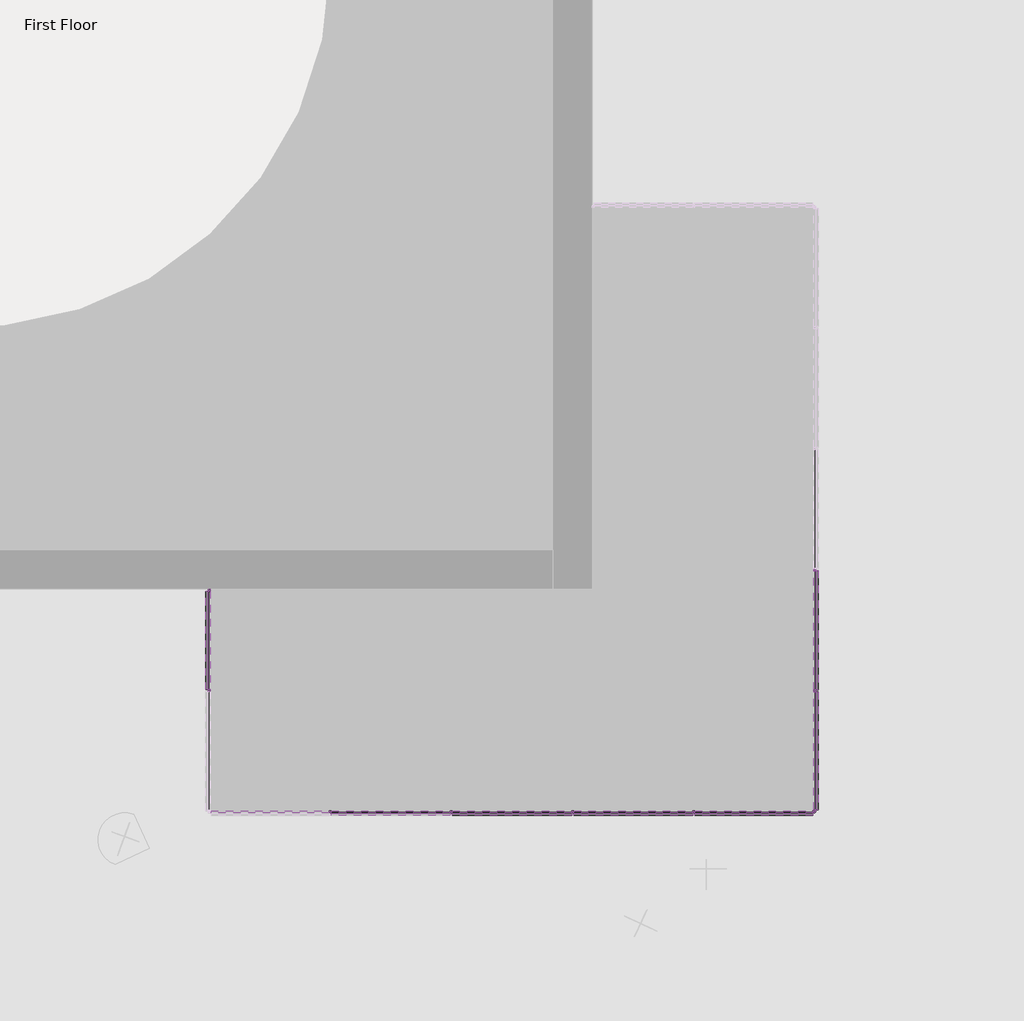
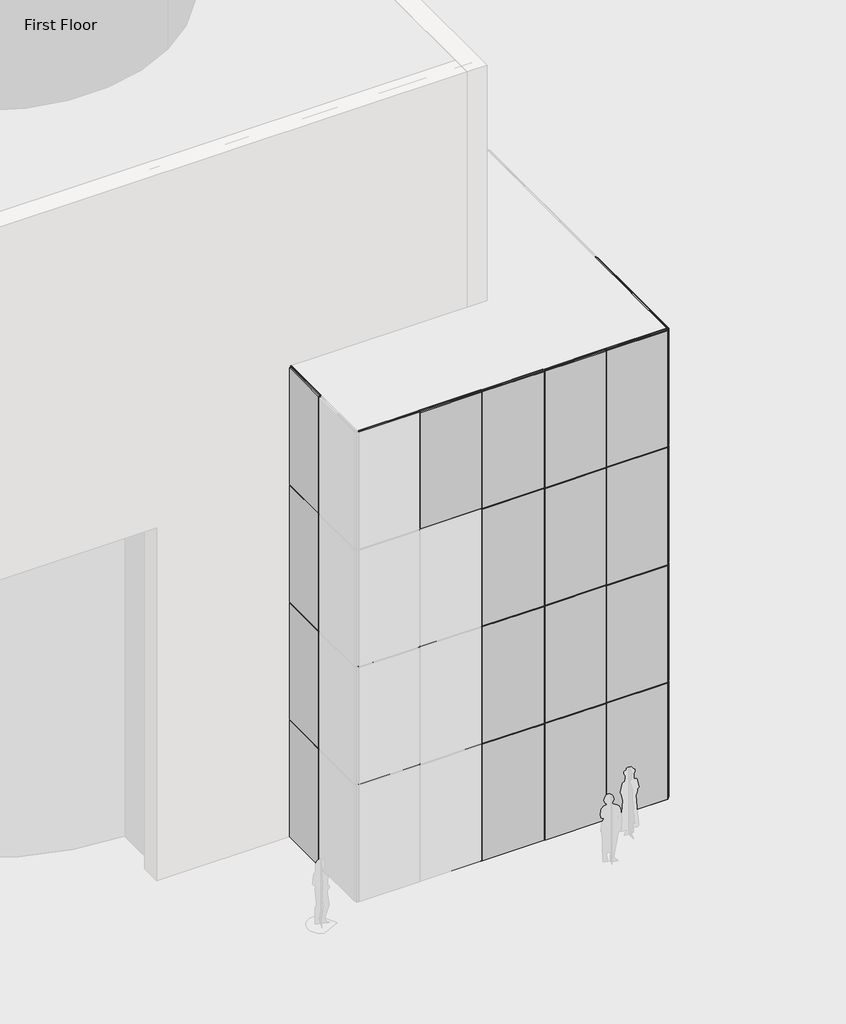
# One storey, part 2 of 5: 82 members, 25 plates.
"""IFC4 building model written with IfcOpenShell, lengths in millimetres."""

import ifcopenshell
import ifcopenshell.guid

model = None  # the IFC model being written
_history = None  # IfcOwnerHistory: only IFC2X3 demands one
_inside = {}  # id of a spatial element -> (the spatial element, [elements in it])
_under = {}  # id of a project, library or spatial element -> (it, [spatial elements below it])
_declared = {}  # id of a project -> (the project, [libraries it declares])
_typed = {}  # id of a type object -> (the type object, [elements of that type])
_made_of = {}  # id of a material, layer set ... -> (it, [elements and type objects made of it])


def new_model(schema):
    """Start an empty IFC model of exactly this schema.

    Asked for "IFC4X3", IfcOpenShell would pick the latest addendum, in which some entities
    have other attributes; the version numbers below select the first issue.
    IFC2X3 requires an IfcOwnerHistory on every rooted entity: one is made here for all.
    """
    global model, _history
    if schema == "IFC4X3":
        model = ifcopenshell.file(schema_version=(4, 3, 0, 0))
    else:
        model = ifcopenshell.file(schema=schema)
    _inside.clear()
    _under.clear()
    _declared.clear()
    _typed.clear()
    _made_of.clear()
    _history = None
    if model.schema == "IFC2X3":
        org = make("IfcOrganization", Name="unknown")
        user = make(
            "IfcPersonAndOrganization",
            ThePerson=make("IfcPerson", FamilyName="unknown"),
            TheOrganization=org,
        )
        app = make(
            "IfcApplication",
            ApplicationDeveloper=org,
            Version="unknown",
            ApplicationFullName="unknown",
            ApplicationIdentifier="unknown",
        )
        _history = make(
            "IfcOwnerHistory",
            OwningUser=user,
            OwningApplication=app,
            ChangeAction="ADDED",
            CreationDate=0,
        )
    return model


def make(cls, **values):
    """One entity of the class cls with the attributes given. An attribute that is None is left unset."""
    return model.create_entity(
        cls, **{name: value for name, value in values.items() if value is not None}
    )


def rooted(cls, **values):
    """An entity with a GlobalId (a new one), such as an element, a storey or a relation."""
    return make(cls, GlobalId=ifcopenshell.guid.new(), OwnerHistory=_history, **values)


def si_unit(unit_type, name, prefix=None):
    """IfcSIUnit, for example si_unit("LENGTHUNIT", "METRE", prefix="MILLI")."""
    return make("IfcSIUnit", UnitType=unit_type, Prefix=prefix, Name=name)


def assignment(units):
    """IfcUnitAssignment: the units of a project."""
    return None if units is None else make("IfcUnitAssignment", Units=units)


def point(xyz):
    """IfcCartesianPoint."""
    return None if xyz is None else make("IfcCartesianPoint", Coordinates=xyz)


def direction(xyz):
    """IfcDirection."""
    return None if xyz is None else make("IfcDirection", DirectionRatios=xyz)


def frame(location, z_axis=None, x_axis=None):
    """IfcAxis2Placement3D, a coordinate frame: its origin and axes. An axis left out is left unset."""
    return make(
        "IfcAxis2Placement3D",
        Location=point(location),
        Axis=direction(z_axis),
        RefDirection=direction(x_axis),
    )


def origin():
    """The frame at (0, 0, 0) with its axes left unset."""
    return frame((0.0, 0.0, 0.0))


def origin_with_axes():
    """The frame at (0, 0, 0) with the z axis (0, 0, 1) and the x axis (1, 0, 0) written out."""
    return frame((0.0, 0.0, 0.0), z_axis=(0.0, 0.0, 1.0), x_axis=(1.0, 0.0, 0.0))


def place(relative_to, where):
    """IfcLocalPlacement: puts the frame where relative to a parent placement (None: the world)."""
    return make(
        "IfcLocalPlacement", PlacementRelTo=relative_to, RelativePlacement=where
    )


def context(
    kind, dimensions, precision=None, world=None, true_north=None, identifier=None
):
    """IfcGeometricRepresentationContext, for example the 3D "Model" context."""
    return make(
        "IfcGeometricRepresentationContext",
        ContextIdentifier=identifier,
        ContextType=kind,
        CoordinateSpaceDimension=dimensions,
        Precision=precision,
        WorldCoordinateSystem=world,
        TrueNorth=true_north,
    )


def project(units=None, contexts=None):
    """IfcProject with its units and contexts."""
    return rooted(
        "IfcProject",
        Name="project",
        RepresentationContexts=contexts,
        UnitsInContext=assignment(units),
    )


def spatial(cls, under=None, at=None, **own):
    """A site, building, storey or space (cls), placed at a placement, below another one or the project."""
    s = rooted(cls, ObjectPlacement=at, **own)
    if under is not None:
        _under.setdefault(under.id(), (under, []))[1].append(s)
    return s


def polyline(points):
    """IfcPolyline through the points."""
    return make("IfcPolyline", Points=[point(p) for p in points])


def outline(outer, holes=None, kind="AREA"):
    """IfcArbitraryClosedProfileDef: a profile drawn as a closed curve; with holes, ...WithVoids."""
    if holes is None:
        return make("IfcArbitraryClosedProfileDef", ProfileType=kind, OuterCurve=outer)
    return make(
        "IfcArbitraryProfileDefWithVoids",
        ProfileType=kind,
        OuterCurve=outer,
        InnerCurves=holes,
    )


def extrude(swept, where, along, depth):
    """IfcExtrudedAreaSolid: the profile swept, set in the frame where, extruded along a direction by depth."""
    return make(
        "IfcExtrudedAreaSolid",
        SweptArea=swept,
        Position=where,
        ExtrudedDirection=direction(along),
        Depth=depth,
    )


def shape(context_of_items, identifier, shape_type, items):
    """IfcShapeRepresentation: the items that make up one representation, for example the "Body"."""
    return make(
        "IfcShapeRepresentation",
        ContextOfItems=context_of_items,
        RepresentationIdentifier=identifier,
        RepresentationType=shape_type,
        Items=items,
    )


def source(mapping_origin, context_of_items, identifier, shape_type, items):
    """IfcRepresentationMap: a shape defined once, which mapped items show again and again."""
    return make(
        "IfcRepresentationMap",
        MappingOrigin=mapping_origin,
        MappedRepresentation=shape(context_of_items, identifier, shape_type, items),
    )


def transform(
    local_origin,
    x_axis=None,
    y_axis=None,
    z_axis=None,
    scale=None,
    scale2=None,
    scale3=None,
    uniform=True,
):
    """IfcCartesianTransformationOperator3D, or its non-uniform kind. x_axis, y_axis, z_axis: its Axis1, 2, 3."""
    if uniform:
        return make(
            "IfcCartesianTransformationOperator3D",
            Axis1=direction(x_axis),
            Axis2=direction(y_axis),
            LocalOrigin=point(local_origin),
            Scale=scale,
            Axis3=direction(z_axis),
        )
    return make(
        "IfcCartesianTransformationOperator3DnonUniform",
        Axis1=direction(x_axis),
        Axis2=direction(y_axis),
        LocalOrigin=point(local_origin),
        Scale=scale,
        Axis3=direction(z_axis),
        Scale2=scale2,
        Scale3=scale3,
    )


def mapped(mapping_source, mapping_target):
    """IfcMappedItem: shows the shape of a source again, moved by a transform."""
    return make(
        "IfcMappedItem", MappingSource=mapping_source, MappingTarget=mapping_target
    )


def made_of(thing, what):
    """Note that an element or type object is made of a material, layer set ...; save() writes the relation."""
    if what is not None:
        _made_of.setdefault(what.id(), (what, []))[1].append(thing)
    return thing


def element(
    cls,
    number,
    at=None,
    inside=None,
    cuts=None,
    type_object=None,
    material=None,
    context=None,
    identifier="Body",
    shape_type=None,
    held_by="IfcProductDefinitionShape",
    body=None,
    shapes=None,
    **own,
):
    """One element of the class cls, such as IfcWall. Its Tag is "e" and its number.

    at: its placement. inside: the storey or other place that contains it. cuts: it is an
    opening in that element (IfcRelVoidsElement). A single representation is given by context,
    identifier, shape_type and body (its items); several are given by shapes. held_by: the class
    of the entity that holds the representations. save() writes the other relations.
    """
    e = rooted(cls, Tag="e%d" % number, ObjectPlacement=at, **own)
    if body is not None:
        shapes = [shape(context, identifier, shape_type, body)]
    if shapes is not None:
        e.Representation = make(held_by, Representations=shapes)
    if inside is not None:
        _inside.setdefault(inside.id(), (inside, []))[1].append(e)
    if cuts is not None:
        rooted(
            "IfcRelVoidsElement", RelatingBuildingElement=cuts, RelatedOpeningElement=e
        )
    if type_object is not None:
        _typed.setdefault(type_object.id(), (type_object, []))[1].append(e)
    return made_of(e, material)


def aggregate(whole, parts):
    """IfcRelAggregates: a whole, such as a stair, and the parts it consists of."""
    return rooted("IfcRelAggregates", RelatingObject=whole, RelatedObjects=parts)


def save(model, path):
    """Write the relations noted so far, then the file.

    IfcRelAggregates (storeys below a building ...), IfcRelContainedInSpatialStructure (elements
    in a storey), IfcRelDefinesByType, IfcRelAssociatesMaterial and IfcRelDeclares: one each for
    every whole, place, type object, material and project.
    """
    for whole, parts in _under.values():
        aggregate(whole, parts)
    for where, things in _inside.values():
        rooted(
            "IfcRelContainedInSpatialStructure",
            RelatedElements=things,
            RelatingStructure=where,
        )
    for kind, things in _typed.values():
        rooted("IfcRelDefinesByType", RelatedObjects=things, RelatingType=kind)
    for what, things in _made_of.values():
        rooted("IfcRelAssociatesMaterial", RelatedObjects=things, RelatingMaterial=what)
    for by, libraries in _declared.values():
        rooted("IfcRelDeclares", RelatingContext=by, RelatedDefinitions=libraries)
    model.write(path)


def member_5e617a80(model_context):
    return source(origin(), model_context, "Body", "SweptSolid", [
        extrude(outline(polyline([(12.7, 12.7), (12.7, -12.7), (-12.7, -12.7), (-12.7, 12.7), (12.7, 12.7)])), frame((0.0, 0.0, -1485.9), z_axis=(0.0, 0.0, 1.0), x_axis=(1.0, 0.0, 0.0)), (0.0, 0.0, 1.0), 1485.9),
    ])


def member_74941792(model_context):
    return source(origin(), model_context, "Body", "SweptSolid", [
        extrude(outline(polyline([(0.0, 12.7), (0.0, -12.7), (-25.4, -12.7), (-25.4, 12.7), (0.0, 12.7)])), frame((0.0, 0.0, -1485.9), z_axis=(0.0, 0.0, 1.0), x_axis=(1.0, 0.0, 0.0)), (0.0, 0.0, 1.0), 1485.9),
    ])


def member_cbdb9076(model_context):
    return source(origin(), model_context, "Body", "SweptSolid", [
        extrude(outline(polyline([(12.7, 12.7), (12.7, -12.7), (-12.7, -12.7), (-12.7, 12.7), (12.7, 12.7)])), frame((0.0, 0.0, -3048.0), z_axis=(0.0, 0.0, 1.0), x_axis=(1.0, 0.0, 0.0)), (0.0, 0.0, 1.0), 3048.0),
    ])


def member_0d8d9af5(model_context):
    return source(origin(), model_context, "Body", "SweptSolid", [
        extrude(outline(polyline([(0.0, 12.7), (0.0, -12.7), (-25.4, -12.7), (-25.4, 12.7), (0.0, 12.7)])), frame((0.0, 0.0, -1241.425), z_axis=(0.0, 0.0, 1.0), x_axis=(1.0, 0.0, 0.0)), (0.0, 0.0, 1.0), 1241.425),
    ])


def member_7e523723(model_context):
    return source(origin(), model_context, "Body", "SweptSolid", [
        extrude(outline(polyline([(0.0, 12.7), (0.0, -12.7), (-25.4, -12.7), (-25.4, 12.7), (0.0, 12.7)])), frame((0.0, 0.0, -3048.0), z_axis=(0.0, 0.0, 1.0), x_axis=(1.0, 0.0, 0.0)), (0.0, 0.0, 1.0), 3048.0),
    ])


def member_9fd3d903(model_context):
    return source(origin(), model_context, "Body", "SweptSolid", [
        extrude(outline(polyline([(12.7, 12.7), (12.7, -12.7), (-12.7, -12.7), (-12.7, 12.7), (12.7, 12.7)])), frame((0.0, 0.0, -1498.6), z_axis=(0.0, 0.0, 1.0), x_axis=(1.0, 0.0, 0.0)), (0.0, 0.0, 1.0), 1498.6),
    ])


def member_6604d1e0(model_context):
    return source(origin(), model_context, "Body", "SweptSolid", [
        extrude(outline(polyline([(0.0, 12.7), (0.0, -12.7), (-25.4, -12.7), (-25.4, 12.7), (0.0, 12.7)])), frame((0.0, 0.0, -1498.6), z_axis=(0.0, 0.0, 1.0), x_axis=(1.0, 0.0, 0.0)), (0.0, 0.0, 1.0), 1498.6),
    ])


def member_e0356dda(model_context):
    return source(origin(), model_context, "Body", "SweptSolid", [
        extrude(outline(polyline([(12.7, 12.7), (12.7, -12.7), (-12.7, -12.7), (-12.7, 12.7), (12.7, 12.7)])), frame((0.0, 0.0, -1238.25), z_axis=(0.0, 0.0, 1.0), x_axis=(1.0, 0.0, 0.0)), (0.0, 0.0, 1.0), 1238.25),
    ])


def member_be0b070d(model_context):
    return source(origin(), model_context, "Body", "SweptSolid", [
        extrude(outline(polyline([(0.0, 12.7), (0.0, -12.7), (-25.4, -12.7), (-25.4, 12.7), (0.0, 12.7)])), frame((0.0, 0.0, -1238.25), z_axis=(0.0, 0.0, 1.0), x_axis=(1.0, 0.0, 0.0)), (0.0, 0.0, 1.0), 1238.25),
    ])


def system_panel_glazed_9b7d687a(model_context):
    return source(origin(), model_context, "Body", "SweptSolid", [
        extrude(outline(polyline([(742.95, -44.45), (-742.95, -44.45), (-742.95, -19.05), (742.95, -19.05), (742.95, -44.45)])), origin_with_axes(), (0.0, 0.0, 1.0), 3009.9),
    ])


def system_panel_glazed_9a901b4a(model_context):
    return source(origin(), model_context, "Body", "SweptSolid", [
        extrude(outline(polyline([(742.95, -44.45), (-742.95, -44.45), (-742.95, -19.05), (742.95, -19.05), (742.95, -44.45)])), origin_with_axes(), (0.0, 0.0, 1.0), 3022.6),
    ])


def system_panel_glazed_2d5e1d3d(model_context):
    return source(origin(), model_context, "Body", "SweptSolid", [
        extrude(outline(polyline([(749.3, -44.45), (-749.3, -44.45), (-749.3, -19.05), (749.3, -19.05), (749.3, -44.45)])), origin_with_axes(), (0.0, 0.0, 1.0), 3009.9),
    ])


def system_panel_glazed_37964ea6(model_context):
    return source(origin(), model_context, "Body", "SweptSolid", [
        extrude(outline(polyline([(749.3, -44.45), (-749.3, -44.45), (-749.3, -19.05), (749.3, -19.05), (749.3, -44.45)])), origin_with_axes(), (0.0, 0.0, 1.0), 3022.6),
    ])


def system_panel_glazed_a669fc9f(model_context):
    return source(origin(), model_context, "Body", "SweptSolid", [
        extrude(outline(polyline([(619.125, -44.45), (-619.125, -44.45), (-619.125, -19.05), (619.125, -19.05), (619.125, -44.45)])), origin_with_axes(), (0.0, 0.0, 1.0), 3009.9),
    ])


def system_panel_glazed_51c864c8(model_context):
    return source(origin(), model_context, "Body", "SweptSolid", [
        extrude(outline(polyline([(619.125, -44.45), (-619.125, -44.45), (-619.125, -19.05), (619.125, -19.05), (619.125, -44.45)])), origin_with_axes(), (0.0, 0.0, 1.0), 3022.6),
    ])


model = new_model("IFC4")

# Units and contexts
model_context = context("Model", 3, world=origin())
ifc_project = project(units=[si_unit("LENGTHUNIT", "METRE", prefix="MILLI")], contexts=[model_context])

# Site, building, storey
site = spatial("IfcSite", under=ifc_project)
building = spatial("IfcBuilding", under=site)
storey = spatial("IfcBuildingStorey", under=building, Name="First Floor", Elevation=0.0)

# Members
placement = place(None, origin())
member_shape = member_5e617a80(model_context)
element("IfcMember", 1, ObjectType="Rectangular Mullion : 1\" Square", at=placement, inside=storey, context=model_context, shape_type="MappedRepresentation", body=[
    mapped(member_shape, transform((2088.1943843, -11353.9860776, 3048.0), x_axis=(0.0, 0.0, 1.0), y_axis=(0.0, -1.0, 0.0), z_axis=(1.0, 0.0, 0.0))),
])
element("IfcMember", 2, ObjectType="Rectangular Mullion : 1\" Square", at=placement, inside=storey, context=model_context, shape_type="MappedRepresentation", body=[
    mapped(member_shape, transform((8171.4943843, -11353.9860776, 3048.0), x_axis=(0.0, 0.0, 1.0), y_axis=(0.0, -1.0, 0.0), z_axis=(1.0, 0.0, 0.0))),
])
element("IfcMember", 3, ObjectType="Rectangular Mullion : 1\" Square", at=placement, inside=storey, context=model_context, shape_type="MappedRepresentation", body=[
    mapped(member_shape, transform((2088.1943843, -11353.9860776, 6096.0), x_axis=(0.0, 0.0, 1.0), y_axis=(0.0, -1.0, 0.0), z_axis=(1.0, 0.0, 0.0))),
])
element("IfcMember", 4, ObjectType="Rectangular Mullion : 1\" Square", at=placement, inside=storey, context=model_context, shape_type="MappedRepresentation", body=[
    mapped(member_shape, transform((8171.4943843, -11353.9860776, 6096.0), x_axis=(0.0, 0.0, 1.0), y_axis=(0.0, -1.0, 0.0), z_axis=(1.0, 0.0, 0.0))),
])
element("IfcMember", 5, ObjectType="Rectangular Mullion : 1\" Square", at=placement, inside=storey, context=model_context, shape_type="MappedRepresentation", body=[
    mapped(member_shape, transform((2088.1943843, -11353.9860776, 9144.0), x_axis=(0.0, 0.0, 1.0), y_axis=(0.0, -1.0, 0.0), z_axis=(1.0, 0.0, 0.0))),
])
element("IfcMember", 6, ObjectType="Rectangular Mullion : 1\" Square", at=placement, inside=storey, context=model_context, shape_type="MappedRepresentation", body=[
    mapped(member_shape, transform((8171.4943843, -11353.9860776, 9144.0), x_axis=(0.0, 0.0, 1.0), y_axis=(0.0, -1.0, 0.0), z_axis=(1.0, 0.0, 0.0))),
])
element("IfcMember", 7, ObjectType="Rectangular Mullion : 1\" Square", at=placement, inside=storey, context=model_context, shape_type="MappedRepresentation", body=[
    mapped(member_shape, transform((8196.8943843, -9842.6860776, 3048.0), x_axis=(0.0, 0.0, 1.0), y_axis=(1.0, 0.0, 0.0), z_axis=(0.0, 1.0, 0.0))),
])
element("IfcMember", 8, ObjectType="Rectangular Mullion : 1\" Square", at=placement, inside=storey, context=model_context, shape_type="MappedRepresentation", body=[
    mapped(member_shape, transform((8196.8943843, -9842.6860776, 6096.0), x_axis=(0.0, 0.0, 1.0), y_axis=(1.0, 0.0, 0.0), z_axis=(0.0, 1.0, 0.0))),
])
element("IfcMember", 9, ObjectType="Rectangular Mullion : 1\" Square", at=placement, inside=storey, context=model_context, shape_type="MappedRepresentation", body=[
    mapped(member_shape, transform((8196.8943843, -9842.6860776, 9144.0), x_axis=(0.0, 0.0, 1.0), y_axis=(1.0, 0.0, 0.0), z_axis=(0.0, 1.0, 0.0))),
])
member_2_shape = member_74941792(model_context)
element("IfcMember", 10, ObjectType="Rectangular Mullion : 1\" Square", at=placement, inside=storey, context=model_context, shape_type="MappedRepresentation", body=[
    mapped(member_2_shape, transform((8171.4943843, -11353.9860776, 12192.0), x_axis=(0.0, 0.0, 1.0), y_axis=(0.0, -1.0, 0.0), z_axis=(1.0, 0.0, 0.0))),
])
element("IfcMember", 11, ObjectType="Rectangular Mullion : 1\" Square", at=placement, inside=storey, context=model_context, shape_type="MappedRepresentation", body=[
    mapped(member_2_shape, transform((2088.1943843, -11353.9860776, 12192.0), x_axis=(0.0, 0.0, 1.0), y_axis=(0.0, -1.0, 0.0), z_axis=(1.0, 0.0, 0.0))),
])
element("IfcMember", 12, ObjectType="Rectangular Mullion : 1\" Square", at=placement, inside=storey, context=model_context, shape_type="MappedRepresentation", body=[
    mapped(member_2_shape, transform((8196.8943843, -9842.6860776, 12192.0), x_axis=(0.0, 0.0, 1.0), y_axis=(1.0, 0.0, 0.0), z_axis=(0.0, 1.0, 0.0))),
])
member_3_shape = member_cbdb9076(model_context)
element("IfcMember", 13, ObjectType="Rectangular Mullion : 1\" Square", at=placement, inside=storey, context=model_context, shape_type="MappedRepresentation", body=[
    mapped(member_3_shape, transform((576.8943843, -9826.8110776, 3048.0), x_axis=(0.0, -1.0, 0.0), y_axis=(-1.0, 0.0, 0.0), z_axis=(0.0, 0.0, -1.0))),
])
element("IfcMember", 14, ObjectType="Rectangular Mullion : 1\" Square", at=placement, inside=storey, context=model_context, shape_type="MappedRepresentation", body=[
    mapped(member_3_shape, transform((576.8943843, -9826.8110776, 6096.0), x_axis=(0.0, -1.0, 0.0), y_axis=(-1.0, 0.0, 0.0), z_axis=(0.0, 0.0, -1.0))),
])
element("IfcMember", 15, ObjectType="Rectangular Mullion : 1\" Square", at=placement, inside=storey, context=model_context, shape_type="MappedRepresentation", body=[
    mapped(member_3_shape, transform((2100.8943843, -11353.9860776, 3048.0), x_axis=(1.0, 0.0, 0.0), y_axis=(0.0, -1.0, 0.0), z_axis=(0.0, 0.0, -1.0))),
])
element("IfcMember", 16, ObjectType="Rectangular Mullion : 1\" Square", at=placement, inside=storey, context=model_context, shape_type="MappedRepresentation", body=[
    mapped(member_3_shape, transform((2100.8943843, -11353.9860776, 6096.0), x_axis=(1.0, 0.0, 0.0), y_axis=(0.0, -1.0, 0.0), z_axis=(0.0, 0.0, -1.0))),
])
element("IfcMember", 17, ObjectType="Rectangular Mullion : 1\" Square", at=placement, inside=storey, context=model_context, shape_type="MappedRepresentation", body=[
    mapped(member_3_shape, transform((3624.8943843, -11353.9860776, 3048.0), x_axis=(1.0, 0.0, 0.0), y_axis=(0.0, -1.0, 0.0), z_axis=(0.0, 0.0, -1.0))),
])
element("IfcMember", 18, ObjectType="Rectangular Mullion : 1\" Square", at=placement, inside=storey, context=model_context, shape_type="MappedRepresentation", body=[
    mapped(member_3_shape, transform((3624.8943843, -11353.9860776, 6096.0), x_axis=(1.0, 0.0, 0.0), y_axis=(0.0, -1.0, 0.0), z_axis=(0.0, 0.0, -1.0))),
])
element("IfcMember", 19, ObjectType="Rectangular Mullion : 1\" Square", at=placement, inside=storey, context=model_context, shape_type="MappedRepresentation", body=[
    mapped(member_3_shape, transform((5148.8943843, -11353.9860776, 3048.0), x_axis=(1.0, 0.0, 0.0), y_axis=(0.0, -1.0, 0.0), z_axis=(0.0, 0.0, -1.0))),
])
element("IfcMember", 20, ObjectType="Rectangular Mullion : 1\" Square", at=placement, inside=storey, context=model_context, shape_type="MappedRepresentation", body=[
    mapped(member_3_shape, transform((5148.8943843, -11353.9860776, 6096.0), x_axis=(1.0, 0.0, 0.0), y_axis=(0.0, -1.0, 0.0), z_axis=(0.0, 0.0, -1.0))),
])
element("IfcMember", 21, ObjectType="Rectangular Mullion : 1\" Square", at=placement, inside=storey, context=model_context, shape_type="MappedRepresentation", body=[
    mapped(member_3_shape, transform((6672.8943843, -11353.9860776, 3048.0), x_axis=(1.0, 0.0, 0.0), y_axis=(0.0, -1.0, 0.0), z_axis=(0.0, 0.0, -1.0))),
])
element("IfcMember", 22, ObjectType="Rectangular Mullion : 1\" Square", at=placement, inside=storey, context=model_context, shape_type="MappedRepresentation", body=[
    mapped(member_3_shape, transform((6672.8943843, -11353.9860776, 6096.0), x_axis=(1.0, 0.0, 0.0), y_axis=(0.0, -1.0, 0.0), z_axis=(0.0, 0.0, -1.0))),
])
element("IfcMember", 23, ObjectType="Rectangular Mullion : 1\" Square", at=placement, inside=storey, context=model_context, shape_type="MappedRepresentation", body=[
    mapped(member_3_shape, transform((8196.8943843, -8305.9860776, 6096.0), x_axis=(0.0, 1.0, 0.0), y_axis=(1.0, 0.0, 0.0), z_axis=(0.0, 0.0, -1.0))),
])
element("IfcMember", 24, ObjectType="Rectangular Mullion : 1\" Square", at=placement, inside=storey, context=model_context, shape_type="MappedRepresentation", body=[
    mapped(member_3_shape, transform((8196.8943843, -9829.9860776, 3048.0), x_axis=(0.0, 1.0, 0.0), y_axis=(1.0, 0.0, 0.0), z_axis=(0.0, 0.0, -1.0))),
])
element("IfcMember", 25, ObjectType="Rectangular Mullion : 1\" Square", at=placement, inside=storey, context=model_context, shape_type="MappedRepresentation", body=[
    mapped(member_3_shape, transform((8196.8943843, -9829.9860776, 6096.0), x_axis=(0.0, 1.0, 0.0), y_axis=(1.0, 0.0, 0.0), z_axis=(0.0, 0.0, -1.0))),
])
element("IfcMember", 26, ObjectType="Rectangular Mullion : 1\" Square", at=placement, inside=storey, context=model_context, shape_type="MappedRepresentation", body=[
    mapped(member_3_shape, transform((8196.8943843, -8305.9860776, 3048.0), x_axis=(0.0, 1.0, 0.0), y_axis=(1.0, 0.0, 0.0), z_axis=(0.0, 0.0, -1.0))),
])
element("IfcMember", 27, ObjectType="Rectangular Mullion : 1\" Square", at=placement, inside=storey, context=model_context, shape_type="MappedRepresentation", body=[
    mapped(member_3_shape, transform((576.8943843, -9826.8110776, 9144.0), x_axis=(0.0, -1.0, 0.0), y_axis=(-1.0, 0.0, 0.0), z_axis=(0.0, 0.0, -1.0))),
])
element("IfcMember", 28, ObjectType="Rectangular Mullion : 1\" Square", at=placement, inside=storey, context=model_context, shape_type="MappedRepresentation", body=[
    mapped(member_3_shape, transform((2100.8943843, -11353.9860776, 9144.0), x_axis=(1.0, 0.0, 0.0), y_axis=(0.0, -1.0, 0.0), z_axis=(0.0, 0.0, -1.0))),
])
element("IfcMember", 29, ObjectType="Rectangular Mullion : 1\" Square", at=placement, inside=storey, context=model_context, shape_type="MappedRepresentation", body=[
    mapped(member_3_shape, transform((3624.8943843, -11353.9860776, 9144.0), x_axis=(1.0, 0.0, 0.0), y_axis=(0.0, -1.0, 0.0), z_axis=(0.0, 0.0, -1.0))),
])
element("IfcMember", 30, ObjectType="Rectangular Mullion : 1\" Square", at=placement, inside=storey, context=model_context, shape_type="MappedRepresentation", body=[
    mapped(member_3_shape, transform((5148.8943843, -11353.9860776, 9144.0), x_axis=(1.0, 0.0, 0.0), y_axis=(0.0, -1.0, 0.0), z_axis=(0.0, 0.0, -1.0))),
])
element("IfcMember", 31, ObjectType="Rectangular Mullion : 1\" Square", at=placement, inside=storey, context=model_context, shape_type="MappedRepresentation", body=[
    mapped(member_3_shape, transform((6672.8943843, -11353.9860776, 9144.0), x_axis=(1.0, 0.0, 0.0), y_axis=(0.0, -1.0, 0.0), z_axis=(0.0, 0.0, -1.0))),
])
element("IfcMember", 32, ObjectType="Rectangular Mullion : 1\" Square", at=placement, inside=storey, context=model_context, shape_type="MappedRepresentation", body=[
    mapped(member_3_shape, transform((8196.8943843, -8305.9860776, 9144.0), x_axis=(0.0, 1.0, 0.0), y_axis=(1.0, 0.0, 0.0), z_axis=(0.0, 0.0, -1.0))),
])
element("IfcMember", 33, ObjectType="Rectangular Mullion : 1\" Square", at=placement, inside=storey, context=model_context, shape_type="MappedRepresentation", body=[
    mapped(member_3_shape, transform((8196.8943843, -9829.9860776, 9144.0), x_axis=(0.0, 1.0, 0.0), y_axis=(1.0, 0.0, 0.0), z_axis=(0.0, 0.0, -1.0))),
])
element("IfcMember", 34, ObjectType="Rectangular Mullion : 1\" Square", at=placement, inside=storey, context=model_context, shape_type="MappedRepresentation", body=[
    mapped(member_3_shape, transform((576.8943843, -9826.8110776, 0.0), x_axis=(0.0, -1.0, 0.0), y_axis=(-1.0, 0.0, 0.0), z_axis=(0.0, 0.0, -1.0))),
])
element("IfcMember", 35, ObjectType="Rectangular Mullion : 1\" Square", at=placement, inside=storey, context=model_context, shape_type="MappedRepresentation", body=[
    mapped(member_3_shape, transform((2100.8943843, -11353.9860776, 0.0), x_axis=(1.0, 0.0, 0.0), y_axis=(0.0, -1.0, 0.0), z_axis=(0.0, 0.0, -1.0))),
])
element("IfcMember", 36, ObjectType="Rectangular Mullion : 1\" Square", at=placement, inside=storey, context=model_context, shape_type="MappedRepresentation", body=[
    mapped(member_3_shape, transform((3624.8943843, -11353.9860776, 0.0), x_axis=(1.0, 0.0, 0.0), y_axis=(0.0, -1.0, 0.0), z_axis=(0.0, 0.0, -1.0))),
])
element("IfcMember", 37, ObjectType="Rectangular Mullion : 1\" Square", at=placement, inside=storey, context=model_context, shape_type="MappedRepresentation", body=[
    mapped(member_3_shape, transform((6672.8943843, -11353.9860776, 0.0), x_axis=(1.0, 0.0, 0.0), y_axis=(0.0, -1.0, 0.0), z_axis=(0.0, 0.0, -1.0))),
])
element("IfcMember", 38, ObjectType="Rectangular Mullion : 1\" Square", at=placement, inside=storey, context=model_context, shape_type="MappedRepresentation", body=[
    mapped(member_3_shape, transform((5148.8943843, -11353.9860776, 0.0), x_axis=(1.0, 0.0, 0.0), y_axis=(0.0, -1.0, 0.0), z_axis=(0.0, 0.0, -1.0))),
])
element("IfcMember", 39, ObjectType="Rectangular Mullion : 1\" Square", at=placement, inside=storey, context=model_context, shape_type="MappedRepresentation", body=[
    mapped(member_3_shape, transform((8196.8943843, -9829.9860776, 0.0), x_axis=(0.0, 1.0, 0.0), y_axis=(1.0, 0.0, 0.0), z_axis=(0.0, 0.0, -1.0))),
])
element("IfcMember", 40, ObjectType="Rectangular Mullion : 1\" Square", at=placement, inside=storey, context=model_context, shape_type="MappedRepresentation", body=[
    mapped(member_3_shape, transform((8196.8943843, -8305.9860776, 0.0), x_axis=(0.0, 1.0, 0.0), y_axis=(1.0, 0.0, 0.0), z_axis=(0.0, 0.0, -1.0))),
])
element("IfcMember", 41, ObjectType="Rectangular Mullion : 1\" Square", at=placement, inside=storey, context=model_context, shape_type="MappedRepresentation", body=[
    mapped(member_2_shape, transform((6685.5943843, -11353.9860776, 0.0), x_axis=(0.0, 0.0, -1.0), y_axis=(0.0, -1.0, 0.0), z_axis=(-1.0, 0.0, 0.0))),
])
element("IfcMember", 42, ObjectType="Rectangular Mullion : 1\" Square", at=placement, inside=storey, context=model_context, shape_type="MappedRepresentation", body=[
    mapped(member_2_shape, transform((8196.8943843, -11328.5860776, 0.0), x_axis=(0.0, 0.0, -1.0), y_axis=(1.0, 0.0, 0.0), z_axis=(0.0, -1.0, 0.0))),
])
member_4_shape = member_0d8d9af5(model_context)
element("IfcMember", 43, ObjectType="Rectangular Mullion : 1\" Square", at=placement, inside=storey, context=model_context, shape_type="MappedRepresentation", body=[
    mapped(member_4_shape, transform((5418.7693843, -3733.9860776, 12192.0), x_axis=(0.0, 0.0, 1.0), y_axis=(0.0, 1.0, 0.0), z_axis=(-1.0, 0.0, 0.0))),
])
member_5_shape = member_7e523723(model_context)
element("IfcMember", 44, ObjectType="Rectangular Mullion : 1\" Square", at=placement, inside=storey, context=model_context, shape_type="MappedRepresentation", body=[
    mapped(member_5_shape, transform((576.8943843, -8550.4610776, 12192.0), x_axis=(0.0, 1.0, 0.0), y_axis=(-1.0, 0.0, 0.0), z_axis=(0.0, 0.0, 1.0))),
])
element("IfcMember", 45, ObjectType="Rectangular Mullion : 1\" Square", at=placement, inside=storey, context=model_context, shape_type="MappedRepresentation", body=[
    mapped(member_5_shape, transform((8196.8943843, -11353.9860776, 12192.0), x_axis=(0.0, -1.0, 0.0), y_axis=(1.0, 0.0, 0.0), z_axis=(0.0, 0.0, 1.0))),
])
element("IfcMember", 46, ObjectType="Rectangular Mullion : 1\" Square", at=placement, inside=storey, context=model_context, shape_type="MappedRepresentation", body=[
    mapped(member_5_shape, transform((8196.8943843, -11353.9860776, 3048.0), x_axis=(1.0, 0.0, 0.0), y_axis=(0.0, -1.0, 0.0), z_axis=(0.0, 0.0, -1.0))),
])
element("IfcMember", 47, ObjectType="Rectangular Mullion : 1\" Square", at=placement, inside=storey, context=model_context, shape_type="MappedRepresentation", body=[
    mapped(member_5_shape, transform((8196.8943843, -11353.9860776, 6096.0), x_axis=(1.0, 0.0, 0.0), y_axis=(0.0, -1.0, 0.0), z_axis=(0.0, 0.0, -1.0))),
])
element("IfcMember", 48, ObjectType="Rectangular Mullion : 1\" Square", at=placement, inside=storey, context=model_context, shape_type="MappedRepresentation", body=[
    mapped(member_5_shape, transform((8196.8943843, -11353.9860776, 9144.0), x_axis=(1.0, 0.0, 0.0), y_axis=(0.0, -1.0, 0.0), z_axis=(0.0, 0.0, -1.0))),
])
element("IfcMember", 49, ObjectType="Rectangular Mullion : 1\" Square", at=placement, inside=storey, context=model_context, shape_type="MappedRepresentation", body=[
    mapped(member_5_shape, transform((576.8943843, -8550.4610776, 3048.0), x_axis=(0.0, 1.0, 0.0), y_axis=(-1.0, 0.0, 0.0), z_axis=(0.0, 0.0, 1.0))),
])
element("IfcMember", 50, ObjectType="Rectangular Mullion : 1\" Square", at=placement, inside=storey, context=model_context, shape_type="MappedRepresentation", body=[
    mapped(member_5_shape, transform((8196.8943843, -11353.9860776, 3048.0), x_axis=(0.0, -1.0, 0.0), y_axis=(1.0, 0.0, 0.0), z_axis=(0.0, 0.0, 1.0))),
])
element("IfcMember", 51, ObjectType="Rectangular Mullion : 1\" Square", at=placement, inside=storey, context=model_context, shape_type="MappedRepresentation", body=[
    mapped(member_5_shape, transform((576.8943843, -8550.4610776, 6096.0), x_axis=(0.0, 1.0, 0.0), y_axis=(-1.0, 0.0, 0.0), z_axis=(0.0, 0.0, 1.0))),
])
element("IfcMember", 52, ObjectType="Rectangular Mullion : 1\" Square", at=placement, inside=storey, context=model_context, shape_type="MappedRepresentation", body=[
    mapped(member_5_shape, transform((576.8943843, -8550.4610776, 9144.0), x_axis=(0.0, 1.0, 0.0), y_axis=(-1.0, 0.0, 0.0), z_axis=(0.0, 0.0, 1.0))),
])
element("IfcMember", 53, ObjectType="Rectangular Mullion : 1\" Square", at=placement, inside=storey, context=model_context, shape_type="MappedRepresentation", body=[
    mapped(member_5_shape, transform((8196.8943843, -11353.9860776, 6096.0), x_axis=(0.0, -1.0, 0.0), y_axis=(1.0, 0.0, 0.0), z_axis=(0.0, 0.0, 1.0))),
])
element("IfcMember", 54, ObjectType="Rectangular Mullion : 1\" Square", at=placement, inside=storey, context=model_context, shape_type="MappedRepresentation", body=[
    mapped(member_5_shape, transform((8196.8943843, -11353.9860776, 9144.0), x_axis=(0.0, -1.0, 0.0), y_axis=(1.0, 0.0, 0.0), z_axis=(0.0, 0.0, 1.0))),
])
element("IfcMember", 55, ObjectType="Rectangular Mullion : 1\" Square", at=placement, inside=storey, context=model_context, shape_type="MappedRepresentation", body=[
    mapped(member_5_shape, transform((8196.8943843, -11353.9860776, 0.0), x_axis=(1.0, 0.0, 0.0), y_axis=(0.0, -1.0, 0.0), z_axis=(0.0, 0.0, -1.0))),
])
member_6_shape = member_9fd3d903(model_context)
element("IfcMember", 56, ObjectType="Rectangular Mullion : 1\" Square", at=placement, inside=storey, context=model_context, shape_type="MappedRepresentation", body=[
    mapped(member_6_shape, transform((3612.1943843, -11353.9860776, 3048.0), x_axis=(0.0, 0.0, 1.0), y_axis=(0.0, -1.0, 0.0), z_axis=(1.0, 0.0, 0.0))),
])
element("IfcMember", 57, ObjectType="Rectangular Mullion : 1\" Square", at=placement, inside=storey, context=model_context, shape_type="MappedRepresentation", body=[
    mapped(member_6_shape, transform((5136.1943843, -11353.9860776, 3048.0), x_axis=(0.0, 0.0, 1.0), y_axis=(0.0, -1.0, 0.0), z_axis=(1.0, 0.0, 0.0))),
])
element("IfcMember", 58, ObjectType="Rectangular Mullion : 1\" Square", at=placement, inside=storey, context=model_context, shape_type="MappedRepresentation", body=[
    mapped(member_6_shape, transform((6660.1943843, -11353.9860776, 3048.0), x_axis=(0.0, 0.0, 1.0), y_axis=(0.0, -1.0, 0.0), z_axis=(1.0, 0.0, 0.0))),
])
element("IfcMember", 59, ObjectType="Rectangular Mullion : 1\" Square", at=placement, inside=storey, context=model_context, shape_type="MappedRepresentation", body=[
    mapped(member_6_shape, transform((3612.1943843, -11353.9860776, 6096.0), x_axis=(0.0, 0.0, 1.0), y_axis=(0.0, -1.0, 0.0), z_axis=(1.0, 0.0, 0.0))),
])
element("IfcMember", 60, ObjectType="Rectangular Mullion : 1\" Square", at=placement, inside=storey, context=model_context, shape_type="MappedRepresentation", body=[
    mapped(member_6_shape, transform((5136.1943843, -11353.9860776, 6096.0), x_axis=(0.0, 0.0, 1.0), y_axis=(0.0, -1.0, 0.0), z_axis=(1.0, 0.0, 0.0))),
])
element("IfcMember", 61, ObjectType="Rectangular Mullion : 1\" Square", at=placement, inside=storey, context=model_context, shape_type="MappedRepresentation", body=[
    mapped(member_6_shape, transform((6660.1943843, -11353.9860776, 6096.0), x_axis=(0.0, 0.0, 1.0), y_axis=(0.0, -1.0, 0.0), z_axis=(1.0, 0.0, 0.0))),
])
element("IfcMember", 62, ObjectType="Rectangular Mullion : 1\" Square", at=placement, inside=storey, context=model_context, shape_type="MappedRepresentation", body=[
    mapped(member_6_shape, transform((3612.1943843, -11353.9860776, 9144.0), x_axis=(0.0, 0.0, 1.0), y_axis=(0.0, -1.0, 0.0), z_axis=(1.0, 0.0, 0.0))),
])
element("IfcMember", 63, ObjectType="Rectangular Mullion : 1\" Square", at=placement, inside=storey, context=model_context, shape_type="MappedRepresentation", body=[
    mapped(member_6_shape, transform((5136.1943843, -11353.9860776, 9144.0), x_axis=(0.0, 0.0, 1.0), y_axis=(0.0, -1.0, 0.0), z_axis=(1.0, 0.0, 0.0))),
])
element("IfcMember", 64, ObjectType="Rectangular Mullion : 1\" Square", at=placement, inside=storey, context=model_context, shape_type="MappedRepresentation", body=[
    mapped(member_6_shape, transform((6660.1943843, -11353.9860776, 9144.0), x_axis=(0.0, 0.0, 1.0), y_axis=(0.0, -1.0, 0.0), z_axis=(1.0, 0.0, 0.0))),
])
element("IfcMember", 65, ObjectType="Rectangular Mullion : 1\" Square", at=placement, inside=storey, context=model_context, shape_type="MappedRepresentation", body=[
    mapped(member_6_shape, transform((8196.8943843, -8318.6860776, 3048.0), x_axis=(0.0, 0.0, 1.0), y_axis=(1.0, 0.0, 0.0), z_axis=(0.0, 1.0, 0.0))),
])
element("IfcMember", 66, ObjectType="Rectangular Mullion : 1\" Square", at=placement, inside=storey, context=model_context, shape_type="MappedRepresentation", body=[
    mapped(member_6_shape, transform((8196.8943843, -8318.6860776, 6096.0), x_axis=(0.0, 0.0, 1.0), y_axis=(1.0, 0.0, 0.0), z_axis=(0.0, 1.0, 0.0))),
])
element("IfcMember", 67, ObjectType="Rectangular Mullion : 1\" Square", at=placement, inside=storey, context=model_context, shape_type="MappedRepresentation", body=[
    mapped(member_6_shape, transform((8196.8943843, -8318.6860776, 9144.0), x_axis=(0.0, 0.0, 1.0), y_axis=(1.0, 0.0, 0.0), z_axis=(0.0, 1.0, 0.0))),
])
member_7_shape = member_6604d1e0(model_context)
element("IfcMember", 68, ObjectType="Rectangular Mullion : 1\" Square", at=placement, inside=storey, context=model_context, shape_type="MappedRepresentation", body=[
    mapped(member_7_shape, transform((6660.1943843, -11353.9860776, 12192.0), x_axis=(0.0, 0.0, 1.0), y_axis=(0.0, -1.0, 0.0), z_axis=(1.0, 0.0, 0.0))),
])
element("IfcMember", 69, ObjectType="Rectangular Mullion : 1\" Square", at=placement, inside=storey, context=model_context, shape_type="MappedRepresentation", body=[
    mapped(member_7_shape, transform((3612.1943843, -11353.9860776, 12192.0), x_axis=(0.0, 0.0, 1.0), y_axis=(0.0, -1.0, 0.0), z_axis=(1.0, 0.0, 0.0))),
])
element("IfcMember", 70, ObjectType="Rectangular Mullion : 1\" Square", at=placement, inside=storey, context=model_context, shape_type="MappedRepresentation", body=[
    mapped(member_7_shape, transform((5136.1943843, -11353.9860776, 12192.0), x_axis=(0.0, 0.0, 1.0), y_axis=(0.0, -1.0, 0.0), z_axis=(1.0, 0.0, 0.0))),
])
element("IfcMember", 71, ObjectType="Rectangular Mullion : 1\" Square", at=placement, inside=storey, context=model_context, shape_type="MappedRepresentation", body=[
    mapped(member_7_shape, transform((8196.8943843, -8318.6860776, 12192.0), x_axis=(0.0, 0.0, 1.0), y_axis=(1.0, 0.0, 0.0), z_axis=(0.0, 1.0, 0.0))),
])
element("IfcMember", 72, ObjectType="Rectangular Mullion : 1\" Square", at=placement, inside=storey, context=model_context, shape_type="MappedRepresentation", body=[
    mapped(member_7_shape, transform((576.8943843, -9839.5110776, 0.0), x_axis=(0.0, 0.0, -1.0), y_axis=(-1.0, 0.0, 0.0), z_axis=(0.0, 1.0, 0.0))),
])
element("IfcMember", 73, ObjectType="Rectangular Mullion : 1\" Square", at=placement, inside=storey, context=model_context, shape_type="MappedRepresentation", body=[
    mapped(member_7_shape, transform((2113.5943843, -11353.9860776, 0.0), x_axis=(0.0, 0.0, -1.0), y_axis=(0.0, -1.0, 0.0), z_axis=(-1.0, 0.0, 0.0))),
])
element("IfcMember", 74, ObjectType="Rectangular Mullion : 1\" Square", at=placement, inside=storey, context=model_context, shape_type="MappedRepresentation", body=[
    mapped(member_7_shape, transform((3637.5943843, -11353.9860776, 0.0), x_axis=(0.0, 0.0, -1.0), y_axis=(0.0, -1.0, 0.0), z_axis=(-1.0, 0.0, 0.0))),
])
element("IfcMember", 75, ObjectType="Rectangular Mullion : 1\" Square", at=placement, inside=storey, context=model_context, shape_type="MappedRepresentation", body=[
    mapped(member_7_shape, transform((5161.5943843, -11353.9860776, 0.0), x_axis=(0.0, 0.0, -1.0), y_axis=(0.0, -1.0, 0.0), z_axis=(-1.0, 0.0, 0.0))),
])
element("IfcMember", 76, ObjectType="Rectangular Mullion : 1\" Square", at=placement, inside=storey, context=model_context, shape_type="MappedRepresentation", body=[
    mapped(member_7_shape, transform((8196.8943843, -9817.2860776, 0.0), x_axis=(0.0, 0.0, -1.0), y_axis=(1.0, 0.0, 0.0), z_axis=(0.0, -1.0, 0.0))),
])
element("IfcMember", 77, ObjectType="Rectangular Mullion : 1\" Square", at=placement, inside=storey, context=model_context, shape_type="MappedRepresentation", body=[
    mapped(member_7_shape, transform((8196.8943843, -8293.2860776, 0.0), x_axis=(0.0, 0.0, -1.0), y_axis=(1.0, 0.0, 0.0), z_axis=(0.0, -1.0, 0.0))),
])
member_8_shape = member_e0356dda(model_context)
element("IfcMember", 78, ObjectType="Rectangular Mullion : 1\" Square", at=placement, inside=storey, context=model_context, shape_type="MappedRepresentation", body=[
    mapped(member_8_shape, transform((576.8943843, -9814.1110776, 3048.0), x_axis=(0.0, 0.0, 1.0), y_axis=(-1.0, 0.0, 0.0), z_axis=(0.0, -1.0, 0.0))),
])
element("IfcMember", 79, ObjectType="Rectangular Mullion : 1\" Square", at=placement, inside=storey, context=model_context, shape_type="MappedRepresentation", body=[
    mapped(member_8_shape, transform((576.8943843, -9814.1110776, 6096.0), x_axis=(0.0, 0.0, 1.0), y_axis=(-1.0, 0.0, 0.0), z_axis=(0.0, -1.0, 0.0))),
])
element("IfcMember", 80, ObjectType="Rectangular Mullion : 1\" Square", at=placement, inside=storey, context=model_context, shape_type="MappedRepresentation", body=[
    mapped(member_8_shape, transform((576.8943843, -9814.1110776, 9144.0), x_axis=(0.0, 0.0, 1.0), y_axis=(-1.0, 0.0, 0.0), z_axis=(0.0, -1.0, 0.0))),
])
member_9_shape = member_be0b070d(model_context)
element("IfcMember", 81, ObjectType="Rectangular Mullion : 1\" Square", at=placement, inside=storey, context=model_context, shape_type="MappedRepresentation", body=[
    mapped(member_9_shape, transform((576.8943843, -9814.1110776, 12192.0), x_axis=(0.0, 0.0, 1.0), y_axis=(-1.0, 0.0, 0.0), z_axis=(0.0, -1.0, 0.0))),
])
element("IfcMember", 82, ObjectType="Rectangular Mullion : 1\" Square", at=placement, inside=storey, context=model_context, shape_type="MappedRepresentation", body=[
    mapped(member_9_shape, transform((576.8943843, -8575.8610776, 0.0), x_axis=(0.0, 0.0, -1.0), y_axis=(-1.0, 0.0, 0.0), z_axis=(0.0, 1.0, 0.0))),
])

# Plates
system_panel_glazed_shape = system_panel_glazed_9b7d687a(model_context)
element("IfcPlate", 83, ObjectType="System Panel : Glazed", at=placement, inside=storey, context=model_context, shape_type="MappedRepresentation", body=[
    mapped(system_panel_glazed_shape, transform((7428.5443843, -11353.9860776, 25.4), x_axis=(1.0, 0.0, 0.0), y_axis=(0.0, 1.0, 0.0), z_axis=(0.0, 0.0, 1.0))),
])
element("IfcPlate", 84, ObjectType="System Panel : Glazed", at=placement, inside=storey, context=model_context, shape_type="MappedRepresentation", body=[
    mapped(system_panel_glazed_shape, transform((7428.5443843, -11353.9860776, 9156.7), x_axis=(1.0, 0.0, 0.0), y_axis=(0.0, 1.0, 0.0), z_axis=(0.0, 0.0, 1.0))),
])
element("IfcPlate", 85, ObjectType="System Panel : Glazed", at=placement, inside=storey, context=model_context, shape_type="MappedRepresentation", body=[
    mapped(system_panel_glazed_shape, transform((8196.8943843, -10585.6360776, 25.4), x_axis=(0.0, 1.0, 0.0), y_axis=(-1.0, 0.0, 0.0), z_axis=(0.0, 0.0, 1.0))),
])
element("IfcPlate", 86, ObjectType="System Panel : Glazed", at=placement, inside=storey, context=model_context, shape_type="MappedRepresentation", body=[
    mapped(system_panel_glazed_shape, transform((8196.8943843, -10585.6360776, 9156.7), x_axis=(0.0, 1.0, 0.0), y_axis=(-1.0, 0.0, 0.0), z_axis=(0.0, 0.0, 1.0))),
])
system_panel_glazed_2_shape = system_panel_glazed_9a901b4a(model_context)
element("IfcPlate", 87, ObjectType="System Panel : Glazed", at=placement, inside=storey, context=model_context, shape_type="MappedRepresentation", body=[
    mapped(system_panel_glazed_2_shape, transform((7428.5443843, -11353.9860776, 3060.7), x_axis=(1.0, 0.0, 0.0), y_axis=(0.0, 1.0, 0.0), z_axis=(0.0, 0.0, 1.0))),
])
element("IfcPlate", 88, ObjectType="System Panel : Glazed", at=placement, inside=storey, context=model_context, shape_type="MappedRepresentation", body=[
    mapped(system_panel_glazed_2_shape, transform((7428.5443843, -11353.9860776, 6108.7), x_axis=(1.0, 0.0, 0.0), y_axis=(0.0, 1.0, 0.0), z_axis=(0.0, 0.0, 1.0))),
])
element("IfcPlate", 89, ObjectType="System Panel : Glazed", at=placement, inside=storey, context=model_context, shape_type="MappedRepresentation", body=[
    mapped(system_panel_glazed_2_shape, transform((8196.8943843, -10585.6360776, 3060.7), x_axis=(0.0, 1.0, 0.0), y_axis=(-1.0, 0.0, 0.0), z_axis=(0.0, 0.0, 1.0))),
])
element("IfcPlate", 90, ObjectType="System Panel : Glazed", at=placement, inside=storey, context=model_context, shape_type="MappedRepresentation", body=[
    mapped(system_panel_glazed_2_shape, transform((8196.8943843, -10585.6360776, 6108.7), x_axis=(0.0, 1.0, 0.0), y_axis=(-1.0, 0.0, 0.0), z_axis=(0.0, 0.0, 1.0))),
])
system_panel_glazed_3_shape = system_panel_glazed_2d5e1d3d(model_context)
element("IfcPlate", 91, ObjectType="System Panel : Glazed", at=placement, inside=storey, context=model_context, shape_type="MappedRepresentation", body=[
    mapped(system_panel_glazed_3_shape, transform((4386.8943843, -11353.9860776, 25.4), x_axis=(1.0, 0.0, 0.0), y_axis=(0.0, 1.0, 0.0), z_axis=(0.0, 0.0, 1.0))),
])
element("IfcPlate", 92, ObjectType="System Panel : Glazed", at=placement, inside=storey, context=model_context, shape_type="MappedRepresentation", body=[
    mapped(system_panel_glazed_3_shape, transform((5910.8943843, -11353.9860776, 25.4), x_axis=(1.0, 0.0, 0.0), y_axis=(0.0, 1.0, 0.0), z_axis=(0.0, 0.0, 1.0))),
])
element("IfcPlate", 93, ObjectType="System Panel : Glazed", at=placement, inside=storey, context=model_context, shape_type="MappedRepresentation", body=[
    mapped(system_panel_glazed_3_shape, transform((2862.8943843, -11353.9860776, 9156.7), x_axis=(1.0, 0.0, 0.0), y_axis=(0.0, 1.0, 0.0), z_axis=(0.0, 0.0, 1.0))),
])
element("IfcPlate", 94, ObjectType="System Panel : Glazed", at=placement, inside=storey, context=model_context, shape_type="MappedRepresentation", body=[
    mapped(system_panel_glazed_3_shape, transform((4386.8943843, -11353.9860776, 9156.7), x_axis=(1.0, 0.0, 0.0), y_axis=(0.0, 1.0, 0.0), z_axis=(0.0, 0.0, 1.0))),
])
element("IfcPlate", 95, ObjectType="System Panel : Glazed", at=placement, inside=storey, context=model_context, shape_type="MappedRepresentation", body=[
    mapped(system_panel_glazed_3_shape, transform((5910.8943843, -11353.9860776, 9156.7), x_axis=(1.0, 0.0, 0.0), y_axis=(0.0, 1.0, 0.0), z_axis=(0.0, 0.0, 1.0))),
])
element("IfcPlate", 96, ObjectType="System Panel : Glazed", at=placement, inside=storey, context=model_context, shape_type="MappedRepresentation", body=[
    mapped(system_panel_glazed_3_shape, transform((8196.8943843, -9067.9860776, 25.4), x_axis=(0.0, 1.0, 0.0), y_axis=(-1.0, 0.0, 0.0), z_axis=(0.0, 0.0, 1.0))),
])
element("IfcPlate", 97, ObjectType="System Panel : Glazed", at=placement, inside=storey, context=model_context, shape_type="MappedRepresentation", body=[
    mapped(system_panel_glazed_3_shape, transform((8196.8943843, -9067.9860776, 9156.7), x_axis=(0.0, 1.0, 0.0), y_axis=(-1.0, 0.0, 0.0), z_axis=(0.0, 0.0, 1.0))),
])
system_panel_glazed_4_shape = system_panel_glazed_37964ea6(model_context)
element("IfcPlate", 98, ObjectType="System Panel : Glazed", at=placement, inside=storey, context=model_context, shape_type="MappedRepresentation", body=[
    mapped(system_panel_glazed_4_shape, transform((4386.8943843, -11353.9860776, 3060.7), x_axis=(1.0, 0.0, 0.0), y_axis=(0.0, 1.0, 0.0), z_axis=(0.0, 0.0, 1.0))),
])
element("IfcPlate", 99, ObjectType="System Panel : Glazed", at=placement, inside=storey, context=model_context, shape_type="MappedRepresentation", body=[
    mapped(system_panel_glazed_4_shape, transform((5910.8943843, -11353.9860776, 3060.7), x_axis=(1.0, 0.0, 0.0), y_axis=(0.0, 1.0, 0.0), z_axis=(0.0, 0.0, 1.0))),
])
element("IfcPlate", 100, ObjectType="System Panel : Glazed", at=placement, inside=storey, context=model_context, shape_type="MappedRepresentation", body=[
    mapped(system_panel_glazed_4_shape, transform((4386.8943843, -11353.9860776, 6108.7), x_axis=(1.0, 0.0, 0.0), y_axis=(0.0, 1.0, 0.0), z_axis=(0.0, 0.0, 1.0))),
])
element("IfcPlate", 101, ObjectType="System Panel : Glazed", at=placement, inside=storey, context=model_context, shape_type="MappedRepresentation", body=[
    mapped(system_panel_glazed_4_shape, transform((5910.8943843, -11353.9860776, 6108.7), x_axis=(1.0, 0.0, 0.0), y_axis=(0.0, 1.0, 0.0), z_axis=(0.0, 0.0, 1.0))),
])
element("IfcPlate", 102, ObjectType="System Panel : Glazed", at=placement, inside=storey, context=model_context, shape_type="MappedRepresentation", body=[
    mapped(system_panel_glazed_4_shape, transform((8196.8943843, -9067.9860776, 3060.7), x_axis=(0.0, 1.0, 0.0), y_axis=(-1.0, 0.0, 0.0), z_axis=(0.0, 0.0, 1.0))),
])
element("IfcPlate", 103, ObjectType="System Panel : Glazed", at=placement, inside=storey, context=model_context, shape_type="MappedRepresentation", body=[
    mapped(system_panel_glazed_4_shape, transform((8196.8943843, -9067.9860776, 6108.7), x_axis=(0.0, 1.0, 0.0), y_axis=(-1.0, 0.0, 0.0), z_axis=(0.0, 0.0, 1.0))),
])
system_panel_glazed_5_shape = system_panel_glazed_a669fc9f(model_context)
element("IfcPlate", 104, ObjectType="System Panel : Glazed", at=placement, inside=storey, context=model_context, shape_type="MappedRepresentation", body=[
    mapped(system_panel_glazed_5_shape, transform((576.8943843, -9194.9860776, 25.4), x_axis=(0.0, -1.0, 0.0), y_axis=(1.0, 0.0, 0.0), z_axis=(0.0, 0.0, 1.0))),
])
element("IfcPlate", 105, ObjectType="System Panel : Glazed", at=placement, inside=storey, context=model_context, shape_type="MappedRepresentation", body=[
    mapped(system_panel_glazed_5_shape, transform((576.8943843, -9194.9860776, 9156.7), x_axis=(0.0, -1.0, 0.0), y_axis=(1.0, 0.0, 0.0), z_axis=(0.0, 0.0, 1.0))),
])
system_panel_glazed_6_shape = system_panel_glazed_51c864c8(model_context)
element("IfcPlate", 106, ObjectType="System Panel : Glazed", at=placement, inside=storey, context=model_context, shape_type="MappedRepresentation", body=[
    mapped(system_panel_glazed_6_shape, transform((576.8943843, -9194.9860776, 3060.7), x_axis=(0.0, -1.0, 0.0), y_axis=(1.0, 0.0, 0.0), z_axis=(0.0, 0.0, 1.0))),
])
element("IfcPlate", 107, ObjectType="System Panel : Glazed", at=placement, inside=storey, context=model_context, shape_type="MappedRepresentation", body=[
    mapped(system_panel_glazed_6_shape, transform((576.8943843, -9194.9860776, 6108.7), x_axis=(0.0, -1.0, 0.0), y_axis=(1.0, 0.0, 0.0), z_axis=(0.0, 0.0, 1.0))),
])

save(model, "model.ifc")
